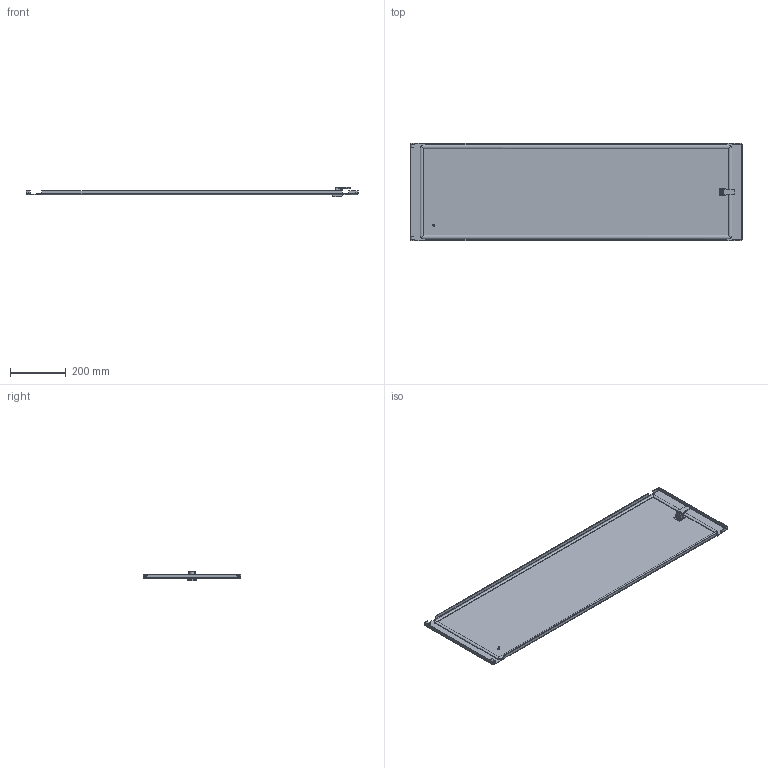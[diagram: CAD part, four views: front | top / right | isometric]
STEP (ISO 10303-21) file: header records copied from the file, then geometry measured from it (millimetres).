
FILE_DESCRIPTION(('STEP AP203'), '1');
FILE_NAME('Äâåðü ñåêöèîííàÿ 350õ1200 ìì OptiBox M 419969 ÊÝÀÇ', '', ('UNSPECIFIED'), ('UNSPECIFIED'), 'C3D Converter', 'C3D Toolkit', '');
FILE_SCHEMA(('CONFIG_CONTROL_DESIGN'));
Length unit declared in the file: millimetre
Bounding box: 1186.4 x 347 x 32.2 mm (x, y, z)
Volume: 1034508.1 mm3; surface area: 988732.7 mm2
Topology: 6 solids, 6 shells, 355 faces, 928 edges, 588 vertices
Faces by surface type: plane 252, cylinder 92, bspline 8, cone 2, torus 1
Full cylindrical faces by diameter (mm): 0.75 x1, 1 x1, 3 x1, 5 x2, 6 x1, 7.5 x1, 9.3 x1, 10 x1, 20 x1
Entity records: 11864 total; most frequent: CARTESIAN_POINT 3095, ORIENTED_EDGE 1830, DIRECTION 1731, EDGE_CURVE 915, LINE 705, VECTOR 705, VERTEX_POINT 588, AXIS2_PLACEMENT_3D 513
